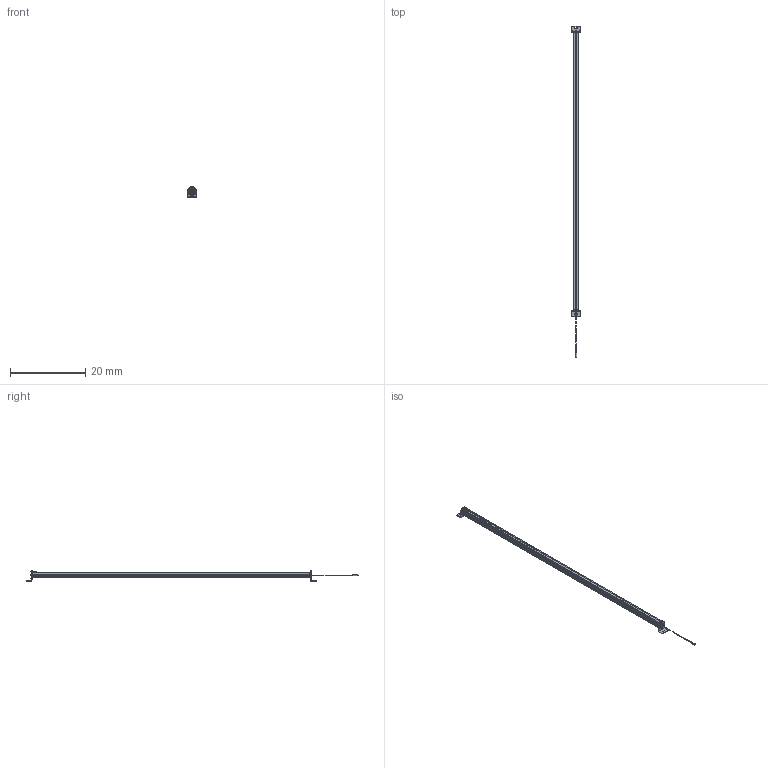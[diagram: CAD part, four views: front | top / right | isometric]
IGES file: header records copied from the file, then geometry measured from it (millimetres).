
Start section:  Autodesk DirectConnect version 7.0.27.0 ---- IGES version 5.3
Global section: file name: C:\ACADFILES\SS_PYLONS\CUSTOMER_FILES\SS-72-PYLON_3D_SMB.iges; native system: Autodesk DirectConnect 7.0.27.0; preprocessor: 7.0.27.0; author: ENGINEERMAIN; organization: Unknown; date: 20150810.130054; units: millimetre
Bounding box: 2.26 x 88.01 x 2.75 mm (x, y, z)
Surface area: 1124.2 mm2 (no closed solid volume)
Topology: 0 solids, 0 shells, 754 faces, 3833 edges, 3829 vertices
Faces by surface type: bspline 754
